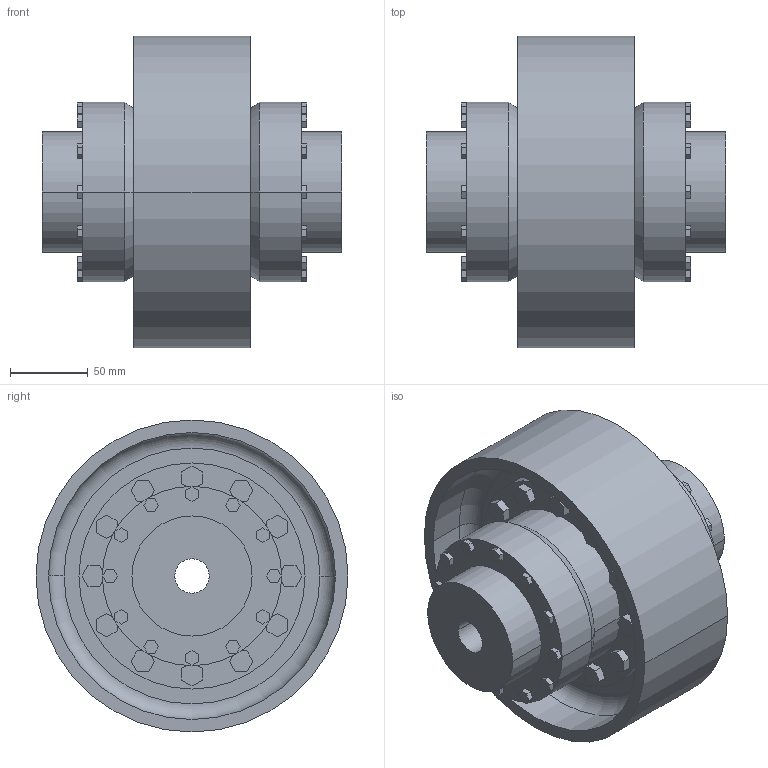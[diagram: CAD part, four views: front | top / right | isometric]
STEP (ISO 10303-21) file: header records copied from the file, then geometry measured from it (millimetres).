
FILE_DESCRIPTION((''),'2;1');
FILE_NAME('A19735500-0_ASM','2019-05-23T',('AB_Roschiwal'),('RENK AG'),'PRO/ENGINEER BY PARAMETRIC TECHNOLOGY CORPORATION, 2015440','PRO/ENGINEER BY PARAMETRIC TECHNOLOGY CORPORATION, 2015440','');
FILE_SCHEMA(('CONFIG_CONTROL_DESIGN'));
Length unit declared in the file: millimetre
Products named in the file (4): SBKD48_GEHAEUSE; SBKD48_NABE; SBKD48_BREMSSCHEIBE; A19735500-0_ASM
Assembly tree (4 placements, depth 2):
  A19735500-0_ASM
    SBKD48_GEHAEUSE
    SBKD48_NABE  x2
    SBKD48_BREMSSCHEIBE
Bounding box: 192 x 200 x 200 mm (x, y, z)
Volume: 1733656.6 mm3; surface area: 352341.4 mm2
Topology: 4 solids, 4 shells, 474 faces, 1164 edges, 772 vertices
Faces by surface type: plane 370, cylinder 96, cone 4, torus 4
Entity records: 13708 total; most frequent: CARTESIAN_POINT 2366, ORIENTED_EDGE 2280, DIRECTION 2264, EDGE_CURVE 1140, VECTOR 956, LINE 956, VERTEX_POINT 756, AXIS2_PLACEMENT_3D 654
